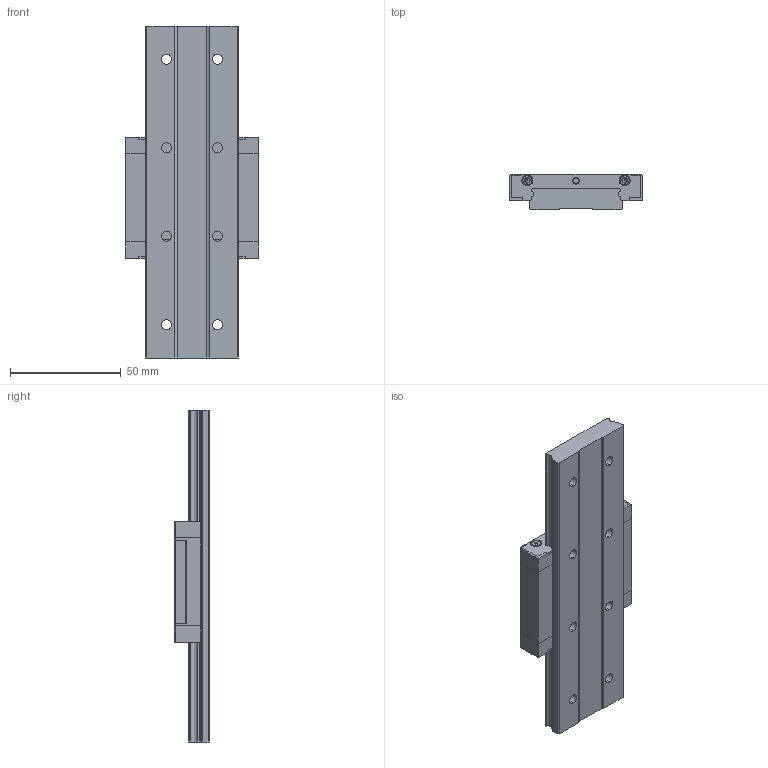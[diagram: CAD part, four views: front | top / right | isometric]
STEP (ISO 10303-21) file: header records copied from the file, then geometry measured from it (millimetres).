
FILE_DESCRIPTION( ('This file contains a STEP AP42 implementation' ,'as created by ZW3D STEP Interface translator.') ,'2;1' );
FILE_NAME( 'TM15WN-NS-Z0.stp' ,'24 9 6.133919', (''), ('ZWCAD Software Co.'), 'Version 1.0', 'ZW3D to STEP translator', '' );
FILE_SCHEMA(('AUTOMOTIVE_DESIGN { 1 0 10303 214 1 1 1 1 }'));
Length unit declared in the file: millimetre
Products named in the file (9): 0; TM15WN-NS-Z0; TM15W絳寢^TM15WS-NS-Z0; TM15WS-SS賑輸^TM15WS-NS-Z0; M2.5蹟佪^TM15WS-SS賑輸_TM15WS-NS-Z0; TM15WS傷裔^TM15WS-SS賑輸_TM15WS-NS-Z0; TM15WS-SS防尘片^TM15WS-SS滑块_TM15WS-NS-Z0; TM15WS悜遠釱^TM15WS-SS賑輸_TM15WS-NS-Z0; TM15WS賑輸^TM15WS-SS賑輸_TM15WS-NS-Z0
Assembly tree (12 placements, depth 3):
  0
  TM15WN-NS-Z0
    TM15W絳寢^TM15WS-NS-Z0
    TM15WS-SS賑輸^TM15WS-NS-Z0
      M2.5蹟佪^TM15WS-SS賑輸_TM15WS-NS-Z0  x4
      TM15WS傷裔^TM15WS-SS賑輸_TM15WS-NS-Z0  x2
      TM15WS-SS防尘片^TM15WS-SS滑块_TM15WS-NS-Z0  x2
      TM15WS悜遠釱^TM15WS-SS賑輸_TM15WS-NS-Z0
      TM15WS賑輸^TM15WS-SS賑輸_TM15WS-NS-Z0
Bounding box: 60 x 16 x 150 mm (x, y, z)
Volume: 78809.4 mm3; surface area: 35457.3 mm2
Topology: 11 solids, 11 shells, 602 faces, 3516 edges, 4843 vertices
Faces by surface type: cylinder 295, plane 247, cone 40, bspline 12, torus 8
Entity records: 26653 total; most frequent: CARTESIAN_POINT 14195, B_SPLINE_CURVE_WITH_KNOTS 1893, STYLED_ITEM 1890, ORIENTED_EDGE 1714, DIRECTION 1711, EDGE_CURVE 857, AXIS2_PLACEMENT_3D 587, VERTEX_POINT 560
